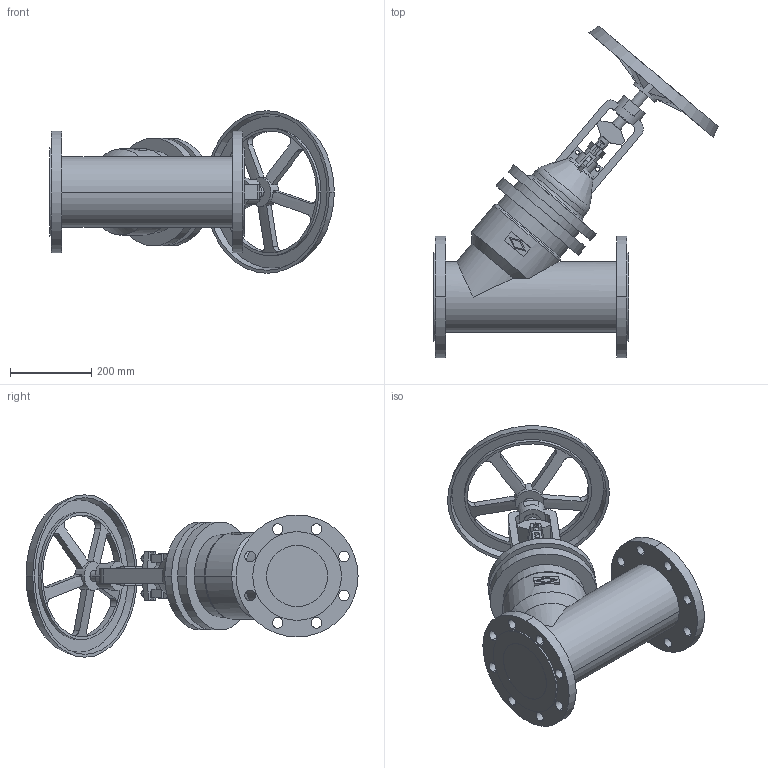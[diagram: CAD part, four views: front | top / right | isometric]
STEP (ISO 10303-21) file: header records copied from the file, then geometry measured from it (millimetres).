
FILE_DESCRIPTION(('OneSpaceDesigner STEP Export'),'2;1');
FILE_NAME('c000004411.stp','2010-05-10T 9:28:55',(''),(''),'OneSpace Designer STEP processor for AP214 (Solid Model)','OneSpace Modeling 15.50B 03-Nov-2007 (C) CoCreate Software GmbH','');
FILE_SCHEMA(('AUTOMOTIVE_DESIGN { 1 0 10303 214 1 1 1 1 }'));
Length unit declared in the file: millimetre
Products named in the file (1): 1
Bounding box: 700.52 x 817.24 x 400 mm (x, y, z)
Volume: 25105820.1 mm3; surface area: 1167067.6 mm2
Topology: 1 solids, 1 shells, 314 faces, 821 edges, 534 vertices
Faces by surface type: plane 149, cylinder 125, cone 24, torus 16
Entity records: 11923 total; most frequent: CARTESIAN_POINT 2154, ORIENTED_EDGE 1642, DIRECTION 1318, EDGE_CURVE 821, VERTEX_POINT 534, AXIS2_PLACEMENT_3D 448, VECTOR 422, LINE 422
